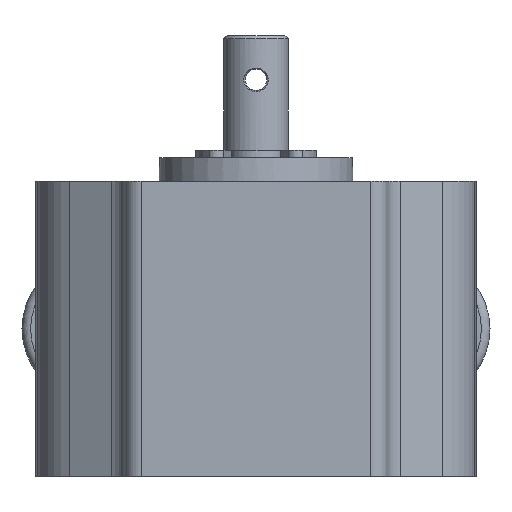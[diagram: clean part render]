
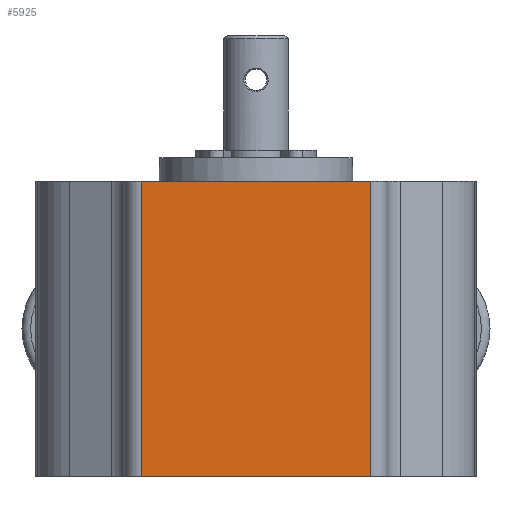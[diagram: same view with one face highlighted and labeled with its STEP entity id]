
A CAD part, front view. The second image highlights one B-rep face of the part: STEP entity #5925.
In plain terms, the highlighted planar face has unit normal (0, -1, 0).
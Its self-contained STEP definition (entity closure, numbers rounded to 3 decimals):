
#47 = EDGE_CURVE ( 'NONE', #16818, #6242, #15447, .T. ) ;
#321 = AXIS2_PLACEMENT_3D ( 'NONE', #14487, #5409, #16025 ) ;
#840 = LINE ( 'NONE', #4687, #1318 ) ;
#1084 = VERTEX_POINT ( 'NONE', #17350 ) ;
#1318 = VECTOR ( 'NONE', #7709, 1000. ) ;
#1484 = ORIENTED_EDGE ( 'NONE', *, *, #47, .T. ) ;
#1850 = VECTOR ( 'NONE', #9442, 1000. ) ;
#2439 = VERTEX_POINT ( 'NONE', #8261 ) ;
#2593 = ORIENTED_EDGE ( 'NONE', *, *, #18780, .T. ) ;
#3012 = ORIENTED_EDGE ( 'NONE', *, *, #6658, .F. ) ;
#3881 = ORIENTED_EDGE ( 'NONE', *, *, #14397, .T. ) ;
#4265 = LINE ( 'NONE', #18543, #7778 ) ;
#4687 = CARTESIAN_POINT ( 'NONE',  ( -10.7, -18.65, -29.7 ) ) ;
#5406 = CARTESIAN_POINT ( 'NONE',  ( -12.2, -18.65, -29.7 ) ) ;
#5409 = DIRECTION ( 'NONE',  ( 0., -1., 0. ) ) ;
#5925 = ADVANCED_FACE ( 'NONE', ( #16316 ), #12835, .T. ) ;
#6242 = VERTEX_POINT ( 'NONE', #9795 ) ;
#6318 = LINE ( 'NONE', #14017, #1850 ) ;
#6658 = EDGE_CURVE ( 'NONE', #1084, #2439, #6318, .T. ) ;
#7373 = VECTOR ( 'NONE', #14805, 1000. ) ;
#7709 = DIRECTION ( 'NONE',  ( 0., 0., -1. ) ) ;
#7778 = VECTOR ( 'NONE', #10971, 1000. ) ;
#8261 = CARTESIAN_POINT ( 'NONE',  ( 10.7, -18.65, -2.2 ) ) ;
#9442 = DIRECTION ( 'NONE',  ( 1., 0., 0. ) ) ;
#9795 = CARTESIAN_POINT ( 'NONE',  ( 10.7, -18.65, -29.7 ) ) ;
#10971 = DIRECTION ( 'NONE',  ( 0., 0., 1. ) ) ;
#11904 = EDGE_LOOP ( 'NONE', ( #3012, #2593, #1484, #3881 ) ) ;
#12835 = PLANE ( 'NONE',  #321 ) ;
#14017 = CARTESIAN_POINT ( 'NONE',  ( -12.2, -18.65, -2.2 ) ) ;
#14397 = EDGE_CURVE ( 'NONE', #6242, #2439, #4265, .T. ) ;
#14487 = CARTESIAN_POINT ( 'NONE',  ( -12.2, -18.65, -29.7 ) ) ;
#14805 = DIRECTION ( 'NONE',  ( 1., 0., 0. ) ) ;
#15447 = LINE ( 'NONE', #5406, #7373 ) ;
#16025 = DIRECTION ( 'NONE',  ( 0., 0., -1. ) ) ;
#16316 = FACE_OUTER_BOUND ( 'NONE', #11904, .T. ) ;
#16818 = VERTEX_POINT ( 'NONE', #18629 ) ;
#17350 = CARTESIAN_POINT ( 'NONE',  ( -10.7, -18.65, -2.2 ) ) ;
#18543 = CARTESIAN_POINT ( 'NONE',  ( 10.7, -18.65, -29.7 ) ) ;
#18629 = CARTESIAN_POINT ( 'NONE',  ( -10.7, -18.65, -29.7 ) ) ;
#18780 = EDGE_CURVE ( 'NONE', #1084, #16818, #840, .T. ) ;
